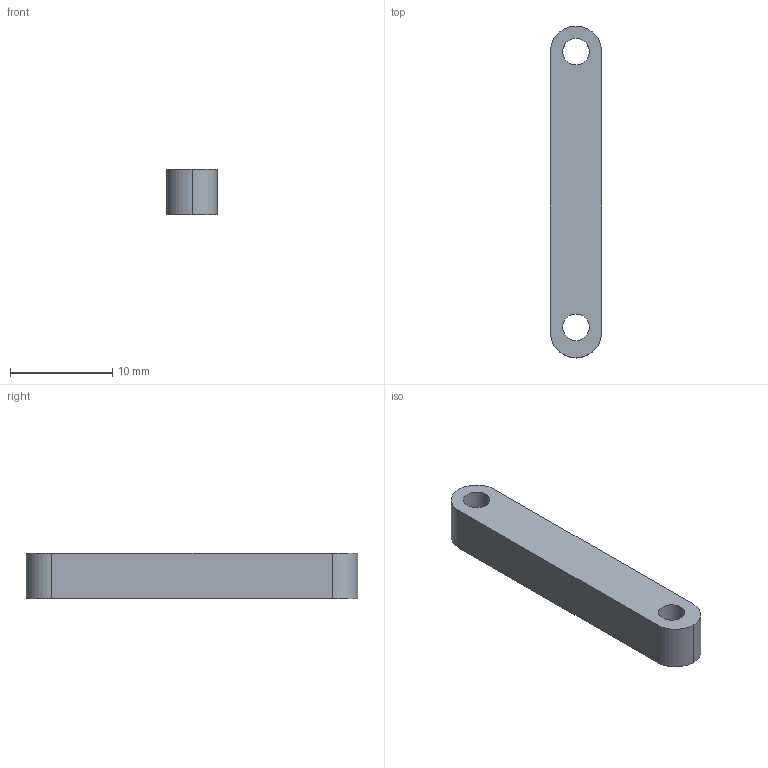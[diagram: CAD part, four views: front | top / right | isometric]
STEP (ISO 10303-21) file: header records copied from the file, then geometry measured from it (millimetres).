
FILE_DESCRIPTION (( 'STEP AP214' ), '1' );
FILE_NAME ('Greifermechanismus_teil1.STEP', '2026-02-05T09:55:58', ( '' ), ( '' ), 'SwSTEP 2.0', 'SolidWorks 2025', '' );
FILE_SCHEMA (( 'AUTOMOTIVE_DESIGN' ));
Length unit declared in the file: metre
Products named in the file (1): Greifermechanismus_teil1
Bounding box: 5 x 32.5 x 4.5 mm (x, y, z)
Volume: 659.3 mm3; surface area: 684.7 mm2
Topology: 1 solids, 1 shells, 12 faces, 30 edges, 20 vertices
Faces by surface type: cylinder 8, plane 4
Entity records: 401 total; most frequent: DIRECTION 72, CARTESIAN_POINT 63, ORIENTED_EDGE 60, EDGE_CURVE 30, AXIS2_PLACEMENT_3D 29, VERTEX_POINT 20, EDGE_LOOP 16, CIRCLE 16
